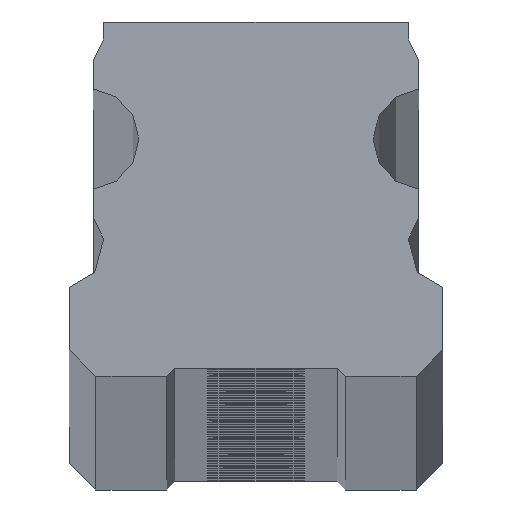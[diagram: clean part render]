
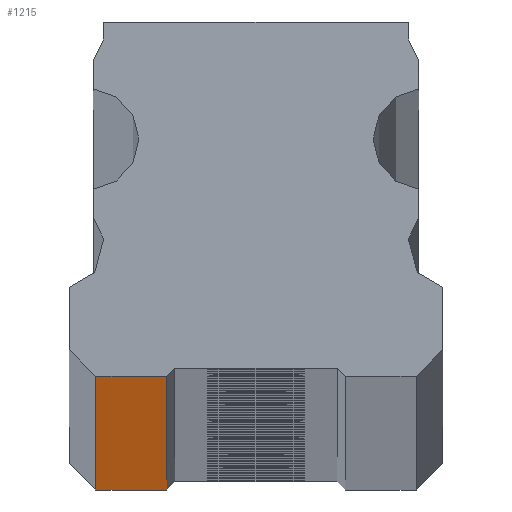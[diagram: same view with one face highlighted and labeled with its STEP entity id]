
A CAD part, top view. The second image highlights one B-rep face of the part: STEP entity #1215.
In plain terms, the highlighted planar face has unit normal (0, -1, 0).
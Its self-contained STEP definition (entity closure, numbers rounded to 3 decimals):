
#1215 = ADVANCED_FACE ( 'NONE', ( #4579 ), #4953, .F. ) ;
#1369 = EDGE_CURVE ( 'NONE', #7260, #7261, #4785, .T. ) ;
#1447 = EDGE_CURVE ( 'NONE', #7260, #7275, #6440, .T. ) ;
#1471 = EDGE_CURVE ( 'NONE', #7297, #7261, #6486, .T. ) ;
#1482 = EDGE_CURVE ( 'NONE', #7275, #7297, #6507, .T. ) ;
#1983 = ORIENTED_EDGE ( 'NONE', *, *, #1369, .T. ) ;
#1984 = ORIENTED_EDGE ( 'NONE', *, *, #1471, .F. ) ;
#1985 = ORIENTED_EDGE ( 'NONE', *, *, #1482, .F. ) ;
#1986 = ORIENTED_EDGE ( 'NONE', *, *, #1447, .F. ) ;
#4579 = FACE_OUTER_BOUND ( 'NONE', #7672, .T. ) ;
#4785 = LINE ( 'NONE', #5383, #4786 ) ;
#4786 = VECTOR ( 'NONE', #5384, 1000. ) ;
#4953 = PLANE ( 'NONE',  #5461 ) ;
#4956 = CARTESIAN_POINT ( 'NONE',  ( -11.5, 0., 2031.69 ) ) ;
#4962 = DIRECTION ( 'NONE',  ( 0., 1., 0. ) ) ;
#4963 = DIRECTION ( 'NONE',  ( 0., 0., 1. ) ) ;
#5383 = CARTESIAN_POINT ( 'NONE',  ( -5.5, 0., -2000. ) ) ;
#5384 = DIRECTION ( 'NONE',  ( 0., 0., 1. ) ) ;
#5461 = AXIS2_PLACEMENT_3D ( 'NONE', #4956, #4962, #4963 ) ;
#5864 = CARTESIAN_POINT ( 'NONE',  ( -11.5, 0., -2000. ) ) ;
#5865 = DIRECTION ( 'NONE',  ( -1., 0., 0. ) ) ;
#5915 = CARTESIAN_POINT ( 'NONE',  ( -11.5, 0., 2000. ) ) ;
#5916 = DIRECTION ( 'NONE',  ( 1., 0., 0. ) ) ;
#5937 = CARTESIAN_POINT ( 'NONE',  ( -9.85, 0., -2000. ) ) ;
#5938 = DIRECTION ( 'NONE',  ( 0., 0., 1. ) ) ;
#6342 = CARTESIAN_POINT ( 'NONE',  ( -5.5, 0., -2000. ) ) ;
#6343 = CARTESIAN_POINT ( 'NONE',  ( -5.5, 0., 2000. ) ) ;
#6357 = CARTESIAN_POINT ( 'NONE',  ( -9.85, 0., -2000. ) ) ;
#6379 = CARTESIAN_POINT ( 'NONE',  ( -9.85, 0., 2000. ) ) ;
#6440 = LINE ( 'NONE', #5864, #6441 ) ;
#6441 = VECTOR ( 'NONE', #5865, 1000. ) ;
#6486 = LINE ( 'NONE', #5915, #6487 ) ;
#6487 = VECTOR ( 'NONE', #5916, 1000. ) ;
#6507 = LINE ( 'NONE', #5937, #6508 ) ;
#6508 = VECTOR ( 'NONE', #5938, 1000. ) ;
#7260 = VERTEX_POINT ( 'NONE', #6342 ) ;
#7261 = VERTEX_POINT ( 'NONE', #6343 ) ;
#7275 = VERTEX_POINT ( 'NONE', #6357 ) ;
#7297 = VERTEX_POINT ( 'NONE', #6379 ) ;
#7672 = EDGE_LOOP ( 'NONE', ( #1983, #1984, #1985, #1986 ) ) ;
